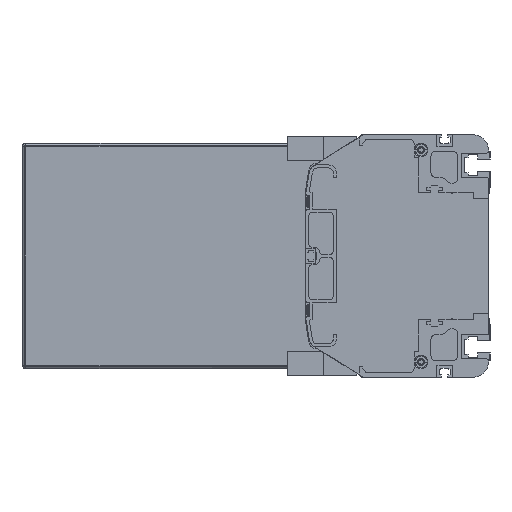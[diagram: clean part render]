
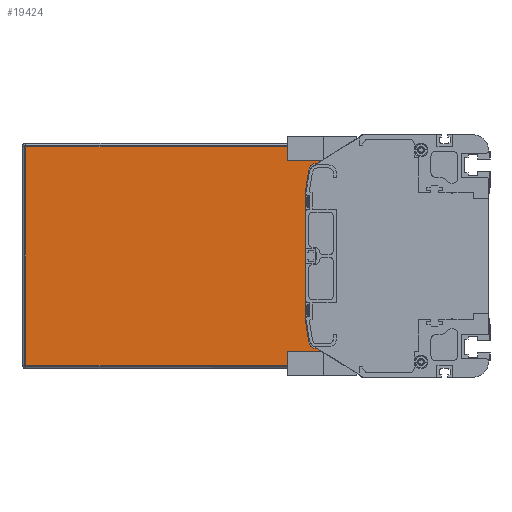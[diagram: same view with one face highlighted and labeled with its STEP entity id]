
A CAD part, left-side view. The second image highlights one B-rep face of the part: STEP entity #19424.
In plain terms, the highlighted planar face has unit normal (-1, 0, 0).
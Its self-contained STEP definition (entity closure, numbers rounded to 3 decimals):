
#726=DIRECTION('',(0.,1.,0.));
#727=VECTOR('',#726,220.5);
#728=CARTESIAN_POINT('',(1486.5,86.,72.));
#729=LINE('',#728,#727);
#777=DIRECTION('',(0.,-1.,0.));
#778=VECTOR('',#777,220.5);
#779=CARTESIAN_POINT('',(1486.5,306.5,-72.));
#780=LINE('',#779,#778);
#836=DIRECTION('',(0.,0.,-1.));
#837=VECTOR('',#836,144.);
#838=CARTESIAN_POINT('',(1486.5,306.5,72.));
#839=LINE('',#838,#837);
#871=CARTESIAN_POINT('',(1486.5,114.728,56.));
#872=DIRECTION('',(-1.,0.,0.));
#873=DIRECTION('',(0.,0.,1.));
#874=AXIS2_PLACEMENT_3D('',#871,#872,#873);
#876=DIRECTION('',(0.,0.156,-0.988));
#877=VECTOR('',#876,14.963);
#878=CARTESIAN_POINT('',(1486.5,119.666,56.78));
#879=LINE('',#878,#877);
#880=DIRECTION('',(0.,-0.156,-0.988));
#881=VECTOR('',#880,14.963);
#882=CARTESIAN_POINT('',(1486.5,122.,-42.));
#883=LINE('',#882,#881);
#884=CARTESIAN_POINT('',(1486.5,114.728,-56.));
#885=DIRECTION('',(-1.,0.,0.));
#886=DIRECTION('',(0.,0.988,-0.156));
#887=AXIS2_PLACEMENT_3D('',#884,#885,#886);
#894=DIRECTION('',(0.,0.,-1.));
#895=VECTOR('',#894,11.);
#896=CARTESIAN_POINT('',(1486.5,86.,-61.));
#897=LINE('',#896,#895);
#903=DIRECTION('',(0.,0.,-1.));
#904=VECTOR('',#903,11.);
#905=CARTESIAN_POINT('',(1486.5,86.,72.));
#906=LINE('',#905,#904);
#9686=DIRECTION('',(0.,1.,0.));
#9687=VECTOR('',#9686,28.728);
#9688=CARTESIAN_POINT('',(1486.5,86.,-61.));
#9689=LINE('',#9688,#9687);
#9706=DIRECTION('',(0.,0.,1.));
#9707=VECTOR('',#9706,84.);
#9708=CARTESIAN_POINT('',(1486.5,122.,-42.));
#9709=LINE('',#9708,#9707);
#9730=DIRECTION('',(0.,-1.,0.));
#9731=VECTOR('',#9730,28.728);
#9732=CARTESIAN_POINT('',(1486.5,114.728,61.));
#9733=LINE('',#9732,#9731);
#14703=CARTESIAN_POINT('',(1486.5,306.5,-72.));
#14704=CARTESIAN_POINT('',(1486.5,86.,-72.));
#14705=VERTEX_POINT('',#14703);
#14706=VERTEX_POINT('',#14704);
#14707=CARTESIAN_POINT('',(1486.5,86.,-61.));
#14708=VERTEX_POINT('',#14707);
#14709=CARTESIAN_POINT('',(1486.5,114.728,-61.));
#14710=VERTEX_POINT('',#14709);
#14711=CARTESIAN_POINT('',(1486.5,119.666,-56.78));
#14712=VERTEX_POINT('',#14711);
#14713=CARTESIAN_POINT('',(1486.5,122.,-42.));
#14714=VERTEX_POINT('',#14713);
#14715=CARTESIAN_POINT('',(1486.5,122.,42.));
#14716=VERTEX_POINT('',#14715);
#14717=CARTESIAN_POINT('',(1486.5,119.666,56.78));
#14718=VERTEX_POINT('',#14717);
#14719=CARTESIAN_POINT('',(1486.5,114.728,61.));
#14720=VERTEX_POINT('',#14719);
#14721=CARTESIAN_POINT('',(1486.5,86.,61.));
#14722=VERTEX_POINT('',#14721);
#14723=CARTESIAN_POINT('',(1486.5,86.,72.));
#14724=VERTEX_POINT('',#14723);
#14725=CARTESIAN_POINT('',(1486.5,306.5,72.));
#14726=VERTEX_POINT('',#14725);
#19396=CARTESIAN_POINT('',(1486.5,196.25,0.));
#19397=DIRECTION('',(1.,0.,0.));
#19398=DIRECTION('',(0.,0.,-1.));
#19399=AXIS2_PLACEMENT_3D('',#19396,#19397,#19398);
#19400=PLANE('',#19399);
#19401=ORIENTED_EDGE('',*,*,#19269,.F.);
#19402=ORIENTED_EDGE('',*,*,#19365,.F.);
#19403=ORIENTED_EDGE('',*,*,#19222,.F.);
#19405=ORIENTED_EDGE('',*,*,#19404,.T.);
#19407=ORIENTED_EDGE('',*,*,#19406,.F.);
#19409=ORIENTED_EDGE('',*,*,#19408,.T.);
#19411=ORIENTED_EDGE('',*,*,#19410,.T.);
#19413=ORIENTED_EDGE('',*,*,#19412,.F.);
#19415=ORIENTED_EDGE('',*,*,#19414,.T.);
#19417=ORIENTED_EDGE('',*,*,#19416,.T.);
#19419=ORIENTED_EDGE('',*,*,#19418,.F.);
#19421=ORIENTED_EDGE('',*,*,#19420,.T.);
#19422=EDGE_LOOP('',(#19401,#19402,#19403,#19405,#19407,#19409,#19411,#19413,
#19415,#19417,#19419,#19421));
#19423=FACE_OUTER_BOUND('',#19422,.F.);
#19424=ADVANCED_FACE('',(#19423),#19400,.F.);
#875=CIRCLE('',#874,5.);
#888=CIRCLE('',#887,5.);
#19222=EDGE_CURVE('',#14724,#14726,#729,.T.);
#19269=EDGE_CURVE('',#14705,#14706,#780,.T.);
#19365=EDGE_CURVE('',#14726,#14705,#839,.T.);
#19404=EDGE_CURVE('',#14724,#14722,#906,.T.);
#19406=EDGE_CURVE('',#14720,#14722,#9733,.T.);
#19408=EDGE_CURVE('',#14720,#14718,#875,.T.);
#19410=EDGE_CURVE('',#14718,#14716,#879,.T.);
#19412=EDGE_CURVE('',#14714,#14716,#9709,.T.);
#19414=EDGE_CURVE('',#14714,#14712,#883,.T.);
#19416=EDGE_CURVE('',#14712,#14710,#888,.T.);
#19418=EDGE_CURVE('',#14708,#14710,#9689,.T.);
#19420=EDGE_CURVE('',#14708,#14706,#897,.T.);
